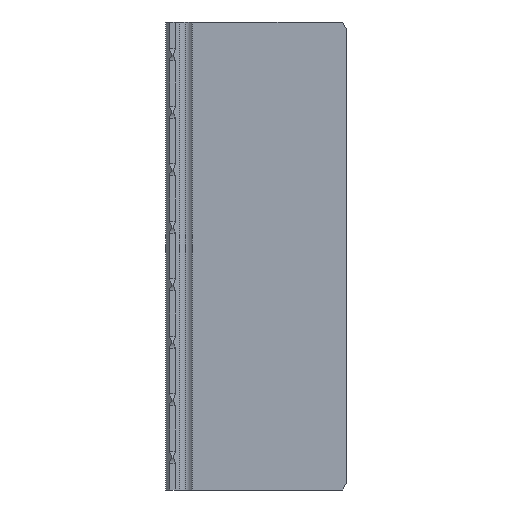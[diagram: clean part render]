
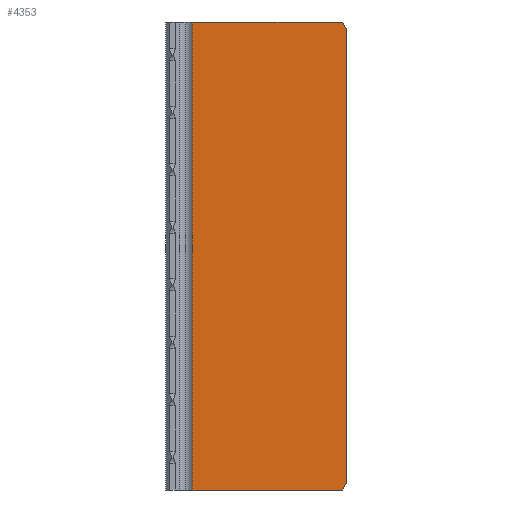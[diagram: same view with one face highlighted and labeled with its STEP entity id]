
A CAD part, left-side view. The second image highlights one B-rep face of the part: STEP entity #4353.
In plain terms, the highlighted planar face has unit normal (-1, 0, 0).
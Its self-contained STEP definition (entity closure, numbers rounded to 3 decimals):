
#165 = DIRECTION ( 'NONE',  ( 0., -1., 0. ) ) ;
#174 = CARTESIAN_POINT ( 'NONE',  ( -20.5, -22., -35. ) ) ;
#384 = VECTOR ( 'NONE', #7551, 1000. ) ;
#449 = DIRECTION ( 'NONE',  ( 0., -0.5, 0.866 ) ) ;
#1077 = ORIENTED_EDGE ( 'NONE', *, *, #6220, .T. ) ;
#1338 = EDGE_CURVE ( 'NONE', #7161, #2879, #7443, .T. ) ;
#1542 = ORIENTED_EDGE ( 'NONE', *, *, #11817, .F. ) ;
#1641 = EDGE_CURVE ( 'NONE', #7161, #9101, #3444, .T. ) ;
#1821 = LINE ( 'NONE', #7297, #7601 ) ;
#1908 = VECTOR ( 'NONE', #449, 1000. ) ;
#2044 = CARTESIAN_POINT ( 'NONE',  ( -20.5, -22., 34. ) ) ;
#2275 = ORIENTED_EDGE ( 'NONE', *, *, #1641, .F. ) ;
#2285 = CARTESIAN_POINT ( 'NONE',  ( -20.5, -21.423, -35. ) ) ;
#2296 = LINE ( 'NONE', #7995, #10176 ) ;
#2612 = VECTOR ( 'NONE', #12447, 1000. ) ;
#2638 = VECTOR ( 'NONE', #4870, 1000. ) ;
#2814 = CARTESIAN_POINT ( 'NONE',  ( -20.5, -21.423, 35. ) ) ;
#2879 = VERTEX_POINT ( 'NONE', #10620 ) ;
#2912 = ORIENTED_EDGE ( 'NONE', *, *, #1338, .T. ) ;
#3444 = LINE ( 'NONE', #8675, #384 ) ;
#3456 = CARTESIAN_POINT ( 'NONE',  ( -20.5, -22., -34. ) ) ;
#4353 = ADVANCED_FACE ( 'NONE', ( #9825 ), #5693, .F. ) ;
#4870 = DIRECTION ( 'NONE',  ( 0., 0.5, 0.866 ) ) ;
#5006 = LINE ( 'NONE', #174, #2612 ) ;
#5693 = PLANE ( 'NONE',  #12166 ) ;
#5953 = EDGE_LOOP ( 'NONE', ( #6167, #1077, #2275, #2912, #13282, #1542 ) ) ;
#6043 = DIRECTION ( 'NONE',  ( 0., 0., 1. ) ) ;
#6167 = ORIENTED_EDGE ( 'NONE', *, *, #10191, .T. ) ;
#6220 = EDGE_CURVE ( 'NONE', #11360, #9101, #8655, .T. ) ;
#6380 = CARTESIAN_POINT ( 'NONE',  ( -20.5, 1., 35. ) ) ;
#7161 = VERTEX_POINT ( 'NONE', #2044 ) ;
#7297 = CARTESIAN_POINT ( 'NONE',  ( -20.5, -22., 35. ) ) ;
#7443 = LINE ( 'NONE', #2814, #2638 ) ;
#7551 = DIRECTION ( 'NONE',  ( 0., 0., -1. ) ) ;
#7601 = VECTOR ( 'NONE', #165, 1000. ) ;
#7632 = DIRECTION ( 'NONE',  ( 1., 0., 0. ) ) ;
#7802 = EDGE_CURVE ( 'NONE', #7822, #2879, #1821, .T. ) ;
#7822 = VERTEX_POINT ( 'NONE', #6380 ) ;
#7995 = CARTESIAN_POINT ( 'NONE',  ( -20.5, 1., -35. ) ) ;
#8655 = LINE ( 'NONE', #11757, #1908 ) ;
#8675 = CARTESIAN_POINT ( 'NONE',  ( -20.5, -22., 35. ) ) ;
#9101 = VERTEX_POINT ( 'NONE', #3456 ) ;
#9593 = CARTESIAN_POINT ( 'NONE',  ( -20.5, -22., 35. ) ) ;
#9764 = DIRECTION ( 'NONE',  ( 0., 0., -1. ) ) ;
#9825 = FACE_OUTER_BOUND ( 'NONE', #5953, .T. ) ;
#10176 = VECTOR ( 'NONE', #6043, 1000. ) ;
#10191 = EDGE_CURVE ( 'NONE', #11332, #11360, #5006, .T. ) ;
#10620 = CARTESIAN_POINT ( 'NONE',  ( -20.5, -21.423, 35. ) ) ;
#11332 = VERTEX_POINT ( 'NONE', #13245 ) ;
#11360 = VERTEX_POINT ( 'NONE', #2285 ) ;
#11757 = CARTESIAN_POINT ( 'NONE',  ( -20.5, -22., -34. ) ) ;
#11817 = EDGE_CURVE ( 'NONE', #11332, #7822, #2296, .T. ) ;
#12166 = AXIS2_PLACEMENT_3D ( 'NONE', #9593, #7632, #9764 ) ;
#12447 = DIRECTION ( 'NONE',  ( 0., -1., 0. ) ) ;
#13245 = CARTESIAN_POINT ( 'NONE',  ( -20.5, 1., -35. ) ) ;
#13282 = ORIENTED_EDGE ( 'NONE', *, *, #7802, .F. ) ;
